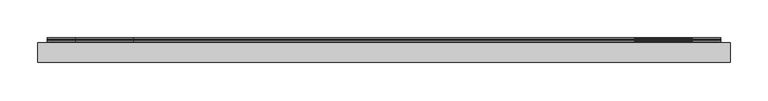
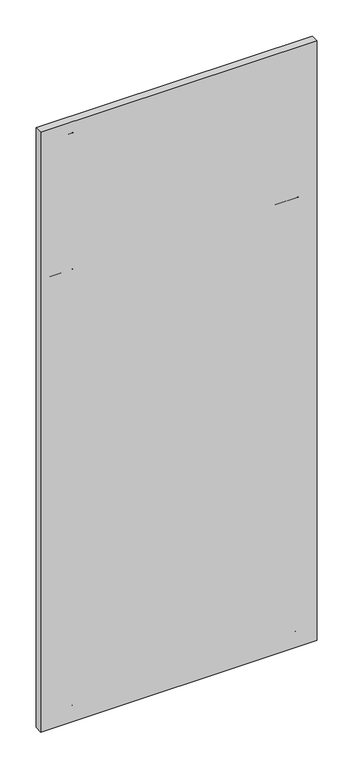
"""IFC4 building model written with IfcOpenShell, lengths in millimetres: furniture geometry, Geiger_GeigerOneCasegoods_WallTileTopTileorWallMounted : Vertical Veneer 36Wx 1.25Dx 82.5H."""

from ifc_helpers import new_model, si_unit, point, frame, frame_2d, origin, place, context, project, spatial, polyline, circle_curve, trimmed, segment, composite_curve, outline, extrude, source, transform, mapped, element, save


def furniture_30adaf94(model_context):
    return source(origin(), model_context, "Body", "SweptSolid", [
        extrude(outline(composite_curve([segment(polyline([(2.8956, -533.7556), (2.8956, -540.6898), (3.7084, -541.4772), (5.6134, -541.4772), (6.4008, -542.29), (6.4008, -573.9892), (5.1054, -573.9892), (3.5052, -572.389), (3.5052, -547.8018), (2.6924, -546.989), (0.8128, -546.989), (0.0, -546.2016), (0.0, -532.7904)]), True, "CONTINUOUS"), segment(trimmed(circle_curve(frame_2d((0.8034421, -532.7997579)), 0.8034966), [point((0.0, -532.7904))], [point((1.3716, -532.2316))], False, "CARTESIAN"), True, "CONTINUOUS"), segment(polyline([(1.3716, -532.2316), (2.8956, -533.7556)]), True, "CONTINUOUS")], self_intersect=False)), frame((12.5, 0.0, 0.0), z_axis=(1.0, 0.0, 0.0), x_axis=(0.0, 1.0, 0.0)), (0.0, 0.0, 1.0), 888.0),
        extrude(outline(composite_curve([segment(polyline([(-2.8956, 996.5934), (-2.8956, 1021.1806), (-1.2954, 1022.7808), (0.0, 1022.7808), (0.0, 991.0816), (-0.7864312, 990.2698), (-2.6913677, 990.2698), (-3.5052, 989.4814), (-3.5052, 982.5472), (-5.0292, 981.0232)]), True, "CONTINUOUS"), segment(trimmed(circle_curve(frame_2d((-5.5973579, 981.5913579)), 0.8034966), [point((-5.0292, 981.0232))], [point((-6.4008, 981.582))], False, "CARTESIAN"), True, "CONTINUOUS"), segment(polyline([(-6.4008, 981.582), (-6.4008, 994.9932), (-5.588, 995.7806), (-3.7084, 995.7806), (-2.8956, 996.5934)]), True, "CONTINUOUS")], self_intersect=False)), frame((787.0, 0.0, 0.0), z_axis=(1.0, 0.0, 0.0), x_axis=(0.0, 1.0, 0.0)), (0.0, 0.0, 1.0), 76.0),
        extrude(outline(composite_curve([segment(polyline([(3.5052, 982.5472), (3.5052, 989.4814), (2.6913677, 990.2698), (0.7864312, 990.2698), (0.0, 991.0816), (0.0, 1022.7808), (1.2954, 1022.7808), (2.8956, 1021.1806), (2.8956, 996.5934), (3.7084, 995.7806), (5.588, 995.7806), (6.4008, 994.9932), (6.4008, 981.582)]), True, "CONTINUOUS"), segment(trimmed(circle_curve(frame_2d((5.5973579, 981.5913579)), 0.8034966), [point((6.4008, 981.582))], [point((5.0292, 981.0232))], False, "CARTESIAN"), True, "CONTINUOUS"), segment(polyline([(5.0292, 981.0232), (3.5052, 982.5472)]), True, "CONTINUOUS")], self_intersect=False)), frame((50.0, 0.0, 0.0), z_axis=(1.0, 0.0, 0.0), x_axis=(0.0, 1.0, 0.0)), (0.0, 0.0, 1.0), 76.0),
        extrude(outline(composite_curve([segment(polyline([(2.8956, 1472.3608), (3.7084, 1471.548), (5.588, 1471.548), (6.4008, 1470.7606), (6.4008, 1457.3494)]), True, "CONTINUOUS"), segment(trimmed(circle_curve(frame_2d((5.5973579, 1457.3587579)), 0.8034966), [point((6.4008, 1457.3494))], [point((5.0292, 1456.7906))], False, "CARTESIAN"), True, "CONTINUOUS"), segment(polyline([(5.0292, 1456.7906), (3.5052, 1458.3146), (3.5052, 1465.2488), (2.6913677, 1466.0372), (0.7864312, 1466.0372), (0.0, 1466.849), (0.0, 1498.5482), (1.2954, 1498.5482), (2.8956, 1496.948), (2.8956, 1472.3608)]), True, "CONTINUOUS")], self_intersect=False)), frame((787.0, 0.0, 0.0), z_axis=(1.0, 0.0, 0.0), x_axis=(0.0, 1.0, 0.0)), (0.0, 0.0, 1.0), 76.0),
        extrude(outline(composite_curve([segment(polyline([(3.5052, 1458.3146), (3.5052, 1465.2488), (2.6913677, 1466.0372), (0.7864312, 1466.0372), (0.0, 1466.849), (0.0, 1498.5482), (1.2954, 1498.5482), (2.8956, 1496.948), (2.8956, 1472.3608), (3.7084, 1471.548), (5.588, 1471.548), (6.4008, 1470.7606), (6.4008, 1457.3494)]), True, "CONTINUOUS"), segment(trimmed(circle_curve(frame_2d((5.5973579, 1457.3587579)), 0.8034966), [point((6.4008, 1457.3494))], [point((5.0292, 1456.7906))], False, "CARTESIAN"), True, "CONTINUOUS"), segment(polyline([(5.0292, 1456.7906), (3.5052, 1458.3146)]), True, "CONTINUOUS")], self_intersect=False)), frame((50.0, 0.0, 0.0), z_axis=(1.0, 0.0, 0.0), x_axis=(0.0, 1.0, 0.0)), (0.0, 0.0, 1.0), 76.0),
        extrude(outline(composite_curve([segment(polyline([(2.8956, 228.2444), (2.8956, 221.3102), (3.7084, 220.5228), (5.6134, 220.5228), (6.4008, 219.71), (6.4008, 188.0108), (5.1054, 188.0108), (3.5052, 189.611), (3.5052, 214.1982), (2.6924, 215.011), (0.8128, 215.011), (0.0, 215.7984), (0.0, 229.2096)]), True, "CONTINUOUS"), segment(trimmed(circle_curve(frame_2d((0.8034421, 229.2002421)), 0.8034966), [point((0.0, 229.2096))], [point((1.3716, 229.7684))], False, "CARTESIAN"), True, "CONTINUOUS"), segment(polyline([(1.3716, 229.7684), (2.8956, 228.2444)]), True, "CONTINUOUS")], self_intersect=False)), frame((12.5, 0.0, 0.0), z_axis=(1.0, 0.0, 0.0), x_axis=(0.0, 1.0, 0.0)), (0.0, 0.0, 1.0), 888.0),
        extrude(outline(composite_curve([segment(polyline([(2.8956, 988.4918), (2.8956, 981.5576), (3.7084, 980.7702), (5.6134, 980.7702), (6.4008, 979.9574), (6.4008, 948.2582), (5.1054, 948.2582), (3.5052, 949.8584), (3.5052, 974.4456), (2.6924, 975.2584), (0.8128, 975.2584), (0.0, 976.0458), (0.0, 989.457)]), True, "CONTINUOUS"), segment(trimmed(circle_curve(frame_2d((0.8034421, 989.4476421)), 0.8034966), [point((0.0, 989.457))], [point((1.3716, 990.0158))], False, "CARTESIAN"), True, "CONTINUOUS"), segment(polyline([(1.3716, 990.0158), (2.8956, 988.4918)]), True, "CONTINUOUS")], self_intersect=False)), frame((12.5, 0.0, 0.0), z_axis=(1.0, 0.0, 0.0), x_axis=(0.0, 1.0, 0.0)), (0.0, 0.0, 1.0), 888.0),
        extrude(outline(composite_curve([segment(polyline([(2.8956, 1464.2592), (2.8956, 1457.325), (3.7084, 1456.5376), (5.6134, 1456.5376), (6.4008, 1455.7248), (6.4008, 1424.0256), (5.1054, 1424.0256), (3.5052, 1425.6258), (3.5052, 1450.213), (2.6924, 1451.0258), (0.8128, 1451.0258), (0.0, 1451.8132), (0.0, 1465.2244)]), True, "CONTINUOUS"), segment(trimmed(circle_curve(frame_2d((0.8034421, 1465.2150421)), 0.8034966), [point((0.0, 1465.2244))], [point((1.3716, 1465.7832))], False, "CARTESIAN"), True, "CONTINUOUS"), segment(polyline([(1.3716, 1465.7832), (2.8956, 1464.2592)]), True, "CONTINUOUS")], self_intersect=False)), frame((12.5, 0.0, 0.0), z_axis=(1.0, 0.0, 0.0), x_axis=(0.0, 1.0, 0.0)), (0.0, 0.0, 1.0), 888.0),
        extrude(outline(composite_curve([segment(polyline([(2.8956, -525.654), (3.7084, -526.4668), (5.588, -526.4668), (6.4008, -527.2542), (6.4008, -540.6654)]), True, "CONTINUOUS"), segment(trimmed(circle_curve(frame_2d((5.5973579, -540.6560421)), 0.8034966), [point((6.4008, -540.6654))], [point((5.0292, -541.2242))], False, "CARTESIAN"), True, "CONTINUOUS"), segment(polyline([(5.0292, -541.2242), (3.5052, -539.7002), (3.5052, -532.766), (2.6913677, -531.9776), (0.7864312, -531.9776), (0.0, -531.1658), (0.0, -499.4666), (1.2954, -499.4666), (2.8956, -501.0668), (2.8956, -525.654)]), True, "CONTINUOUS")], self_intersect=False)), frame((787.0, 0.0, 0.0), z_axis=(1.0, 0.0, 0.0), x_axis=(0.0, 1.0, 0.0)), (0.0, 0.0, 1.0), 76.0),
        extrude(outline(composite_curve([segment(polyline([(3.5052, -539.7002), (3.5052, -532.766), (2.6913677, -531.9776), (0.7864312, -531.9776), (0.0, -531.1658), (0.0, -499.4666), (1.2954, -499.4666), (2.8956, -501.0668), (2.8956, -525.654), (3.7084, -526.4668), (5.588, -526.4668), (6.4008, -527.2542), (6.4008, -540.6654)]), True, "CONTINUOUS"), segment(trimmed(circle_curve(frame_2d((5.5973579, -540.6560421)), 0.8034966), [point((6.4008, -540.6654))], [point((5.0292, -541.2242))], False, "CARTESIAN"), True, "CONTINUOUS"), segment(polyline([(5.0292, -541.2242), (3.5052, -539.7002)]), True, "CONTINUOUS")], self_intersect=False)), frame((50.0, 0.0, 0.0), z_axis=(1.0, 0.0, 0.0), x_axis=(0.0, 1.0, 0.0)), (0.0, 0.0, 1.0), 76.0),
        extrude(outline(polyline([(913.0, 0.0), (913.0, -26.0), (0.0, -26.0), (0.0, 0.0), (913.0, 0.0)])), frame((0.0, 0.0, -571.9826), z_axis=(0.0, 0.0, 1.0), x_axis=(1.0, 0.0, 0.0)), (0.0, 0.0, 1.0), 2094.5),
    ])


if __name__ == "__main__":
    model = new_model("IFC4")
    model_context = context("Model", 3, world=origin())
    ifc_project = project(units=[si_unit("LENGTHUNIT", "METRE", prefix="MILLI")], contexts=[model_context])
    site = spatial("IfcSite", under=ifc_project)
    building = spatial("IfcBuilding", under=site)
    placement = place(None, origin())
    furniture_shape = furniture_30adaf94(model_context)
    element("IfcFurniture", 1, ObjectType="Geiger_GeigerOneCasegoods_WallTileTopTileorWallMounted : Vertical Veneer 36Wx 1.25Dx 82.5H", at=placement, inside=building, context=model_context, shape_type="MappedRepresentation", body=[
        mapped(furniture_shape, transform((0.0, 0.0, 0.0), x_axis=(1.0, 0.0, 0.0), y_axis=(0.0, 1.0, 0.0), z_axis=(0.0, 0.0, 1.0))),
    ])
    save(model, "model.ifc")
